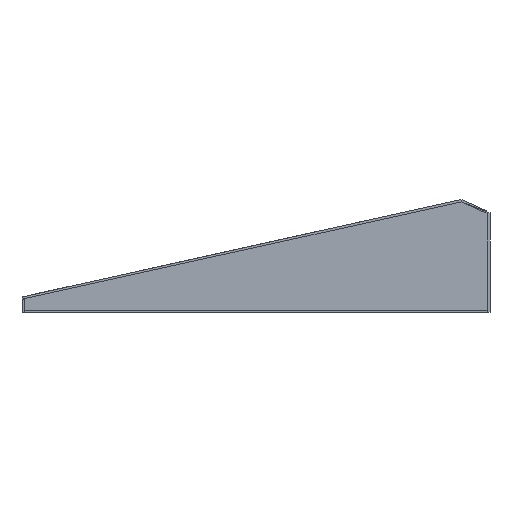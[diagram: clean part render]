
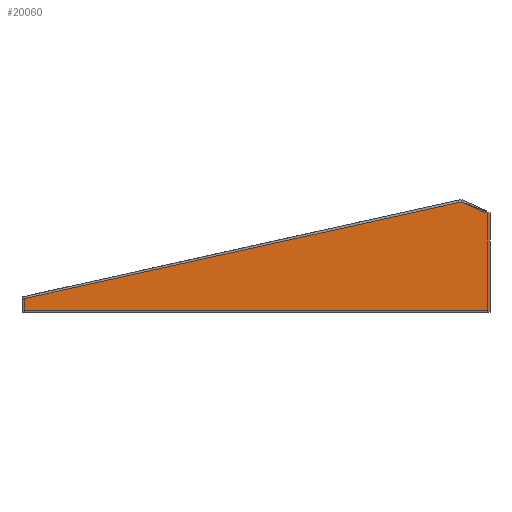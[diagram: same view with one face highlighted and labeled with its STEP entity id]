
A CAD part, front view. The second image highlights one B-rep face of the part: STEP entity #20060.
In plain terms, the highlighted planar face has unit normal (0, -1, 0).
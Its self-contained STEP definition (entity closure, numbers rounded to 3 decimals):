
#19675 = VERTEX_POINT('',#19676);
#19676 = CARTESIAN_POINT('',(0.,0.,0.));
#19685 = PLANE('',#19686);
#19686 = AXIS2_PLACEMENT_3D('',#19687,#19688,#19689);
#19687 = CARTESIAN_POINT('',(0.,0.,0.));
#19688 = DIRECTION('',(0.,0.,-1.));
#19689 = DIRECTION('',(1.,0.,0.));
#19697 = PLANE('',#19698);
#19698 = AXIS2_PLACEMENT_3D('',#19699,#19700,#19701);
#19699 = CARTESIAN_POINT('',(0.,0.,12.));
#19700 = DIRECTION('',(-1.,-0.,-0.));
#19701 = DIRECTION('',(0.,0.,-1.));
#19738 = VERTEX_POINT('',#19739);
#19739 = CARTESIAN_POINT('',(423.,0.,0.));
#19753 = PLANE('',#19754);
#19754 = AXIS2_PLACEMENT_3D('',#19755,#19756,#19757);
#19755 = CARTESIAN_POINT('',(423.,0.,0.));
#19756 = DIRECTION('',(1.,0.,-0.));
#19757 = DIRECTION('',(0.,0.,1.));
#19765 = EDGE_CURVE('',#19675,#19738,#19766,.T.);
#19766 = SURFACE_CURVE('',#19767,(#19771,#19778),.PCURVE_S1.);
#19767 = LINE('',#19768,#19769);
#19768 = CARTESIAN_POINT('',(0.,0.,0.));
#19769 = VECTOR('',#19770,1.);
#19770 = DIRECTION('',(1.,0.,0.));
#19771 = PCURVE('',#19685,#19772);
#19772 = DEFINITIONAL_REPRESENTATION('',(#19773),#19777);
#19773 = LINE('',#19774,#19775);
#19774 = CARTESIAN_POINT('',(0.,0.));
#19775 = VECTOR('',#19776,1.);
#19776 = DIRECTION('',(1.,0.));
#19777 = ( GEOMETRIC_REPRESENTATION_CONTEXT(2) 
PARAMETRIC_REPRESENTATION_CONTEXT() REPRESENTATION_CONTEXT('2D SPACE',''
  ) );
#19778 = PCURVE('',#19779,#19784);
#19779 = PLANE('',#19780);
#19780 = AXIS2_PLACEMENT_3D('',#19781,#19782,#19783);
#19781 = CARTESIAN_POINT('',(228.947,0.,30.787));
#19782 = DIRECTION('',(-0.,-1.,-0.));
#19783 = DIRECTION('',(0.,0.,-1.));
#19784 = DEFINITIONAL_REPRESENTATION('',(#19785),#19789);
#19785 = LINE('',#19786,#19787);
#19786 = CARTESIAN_POINT('',(30.787,-228.947));
#19787 = VECTOR('',#19788,1.);
#19788 = DIRECTION('',(0.,1.));
#19789 = ( GEOMETRIC_REPRESENTATION_CONTEXT(2) 
PARAMETRIC_REPRESENTATION_CONTEXT() REPRESENTATION_CONTEXT('2D SPACE',''
  ) );
#19819 = VERTEX_POINT('',#19820);
#19820 = CARTESIAN_POINT('',(423.,0.,90.));
#19834 = PLANE('',#19835);
#19835 = AXIS2_PLACEMENT_3D('',#19836,#19837,#19838);
#19836 = CARTESIAN_POINT('',(423.,0.,90.));
#19837 = DIRECTION('',(0.359,0.,0.933));
#19838 = DIRECTION('',(-0.933,0.,0.359));
#19846 = EDGE_CURVE('',#19738,#19819,#19847,.T.);
#19847 = SURFACE_CURVE('',#19848,(#19852,#19859),.PCURVE_S1.);
#19848 = LINE('',#19849,#19850);
#19849 = CARTESIAN_POINT('',(423.,0.,0.));
#19850 = VECTOR('',#19851,1.);
#19851 = DIRECTION('',(0.,0.,1.));
#19852 = PCURVE('',#19753,#19853);
#19853 = DEFINITIONAL_REPRESENTATION('',(#19854),#19858);
#19854 = LINE('',#19855,#19856);
#19855 = CARTESIAN_POINT('',(0.,0.));
#19856 = VECTOR('',#19857,1.);
#19857 = DIRECTION('',(1.,0.));
#19858 = ( GEOMETRIC_REPRESENTATION_CONTEXT(2) 
PARAMETRIC_REPRESENTATION_CONTEXT() REPRESENTATION_CONTEXT('2D SPACE',''
  ) );
#19859 = PCURVE('',#19779,#19860);
#19860 = DEFINITIONAL_REPRESENTATION('',(#19861),#19865);
#19861 = LINE('',#19862,#19863);
#19862 = CARTESIAN_POINT('',(30.787,194.053));
#19863 = VECTOR('',#19864,1.);
#19864 = DIRECTION('',(-1.,0.));
#19865 = ( GEOMETRIC_REPRESENTATION_CONTEXT(2) 
PARAMETRIC_REPRESENTATION_CONTEXT() REPRESENTATION_CONTEXT('2D SPACE',''
  ) );
#19895 = VERTEX_POINT('',#19896);
#19896 = CARTESIAN_POINT('',(397.,0.,100.));
#19910 = PLANE('',#19911);
#19911 = AXIS2_PLACEMENT_3D('',#19912,#19913,#19914);
#19912 = CARTESIAN_POINT('',(397.,0.,100.));
#19913 = DIRECTION('',(-0.216,0.,0.976));
#19914 = DIRECTION('',(-0.976,0.,-0.216));
#19922 = EDGE_CURVE('',#19819,#19895,#19923,.T.);
#19923 = SURFACE_CURVE('',#19924,(#19928,#19935),.PCURVE_S1.);
#19924 = LINE('',#19925,#19926);
#19925 = CARTESIAN_POINT('',(423.,0.,90.));
#19926 = VECTOR('',#19927,1.);
#19927 = DIRECTION('',(-0.933,0.,0.359));
#19928 = PCURVE('',#19834,#19929);
#19929 = DEFINITIONAL_REPRESENTATION('',(#19930),#19934);
#19930 = LINE('',#19931,#19932);
#19931 = CARTESIAN_POINT('',(0.,0.));
#19932 = VECTOR('',#19933,1.);
#19933 = DIRECTION('',(1.,0.));
#19934 = ( GEOMETRIC_REPRESENTATION_CONTEXT(2) 
PARAMETRIC_REPRESENTATION_CONTEXT() REPRESENTATION_CONTEXT('2D SPACE',''
  ) );
#19935 = PCURVE('',#19779,#19936);
#19936 = DEFINITIONAL_REPRESENTATION('',(#19937),#19941);
#19937 = LINE('',#19938,#19939);
#19938 = CARTESIAN_POINT('',(-59.213,194.053));
#19939 = VECTOR('',#19940,1.);
#19940 = DIRECTION('',(-0.359,-0.933));
#19941 = ( GEOMETRIC_REPRESENTATION_CONTEXT(2) 
PARAMETRIC_REPRESENTATION_CONTEXT() REPRESENTATION_CONTEXT('2D SPACE',''
  ) );
#19971 = VERTEX_POINT('',#19972);
#19972 = CARTESIAN_POINT('',(0.,0.,12.));
#19993 = EDGE_CURVE('',#19895,#19971,#19994,.T.);
#19994 = SURFACE_CURVE('',#19995,(#19999,#20006),.PCURVE_S1.);
#19995 = LINE('',#19996,#19997);
#19996 = CARTESIAN_POINT('',(397.,0.,100.));
#19997 = VECTOR('',#19998,1.);
#19998 = DIRECTION('',(-0.976,0.,-0.216));
#19999 = PCURVE('',#19910,#20000);
#20000 = DEFINITIONAL_REPRESENTATION('',(#20001),#20005);
#20001 = LINE('',#20002,#20003);
#20002 = CARTESIAN_POINT('',(0.,0.));
#20003 = VECTOR('',#20004,1.);
#20004 = DIRECTION('',(1.,0.));
#20005 = ( GEOMETRIC_REPRESENTATION_CONTEXT(2) 
PARAMETRIC_REPRESENTATION_CONTEXT() REPRESENTATION_CONTEXT('2D SPACE',''
  ) );
#20006 = PCURVE('',#19779,#20007);
#20007 = DEFINITIONAL_REPRESENTATION('',(#20008),#20012);
#20008 = LINE('',#20009,#20010);
#20009 = CARTESIAN_POINT('',(-69.213,168.053));
#20010 = VECTOR('',#20011,1.);
#20011 = DIRECTION('',(0.216,-0.976));
#20012 = ( GEOMETRIC_REPRESENTATION_CONTEXT(2) 
PARAMETRIC_REPRESENTATION_CONTEXT() REPRESENTATION_CONTEXT('2D SPACE',''
  ) );
#20040 = EDGE_CURVE('',#19971,#19675,#20041,.T.);
#20041 = SURFACE_CURVE('',#20042,(#20046,#20053),.PCURVE_S1.);
#20042 = LINE('',#20043,#20044);
#20043 = CARTESIAN_POINT('',(0.,0.,12.));
#20044 = VECTOR('',#20045,1.);
#20045 = DIRECTION('',(0.,0.,-1.));
#20046 = PCURVE('',#19697,#20047);
#20047 = DEFINITIONAL_REPRESENTATION('',(#20048),#20052);
#20048 = LINE('',#20049,#20050);
#20049 = CARTESIAN_POINT('',(0.,0.));
#20050 = VECTOR('',#20051,1.);
#20051 = DIRECTION('',(1.,0.));
#20052 = ( GEOMETRIC_REPRESENTATION_CONTEXT(2) 
PARAMETRIC_REPRESENTATION_CONTEXT() REPRESENTATION_CONTEXT('2D SPACE',''
  ) );
#20053 = PCURVE('',#19779,#20054);
#20054 = DEFINITIONAL_REPRESENTATION('',(#20055),#20059);
#20055 = LINE('',#20056,#20057);
#20056 = CARTESIAN_POINT('',(18.787,-228.947));
#20057 = VECTOR('',#20058,1.);
#20058 = DIRECTION('',(1.,0.));
#20059 = ( GEOMETRIC_REPRESENTATION_CONTEXT(2) 
PARAMETRIC_REPRESENTATION_CONTEXT() REPRESENTATION_CONTEXT('2D SPACE',''
  ) );
#20060 = ADVANCED_FACE('',(#20061),#19779,.T.);
#20061 = FACE_BOUND('',#20062,.T.);
#20062 = EDGE_LOOP('',(#20063,#20064,#20065,#20066,#20067));
#20063 = ORIENTED_EDGE('',*,*,#19765,.T.);
#20064 = ORIENTED_EDGE('',*,*,#19846,.T.);
#20065 = ORIENTED_EDGE('',*,*,#19922,.T.);
#20066 = ORIENTED_EDGE('',*,*,#19993,.T.);
#20067 = ORIENTED_EDGE('',*,*,#20040,.T.);
